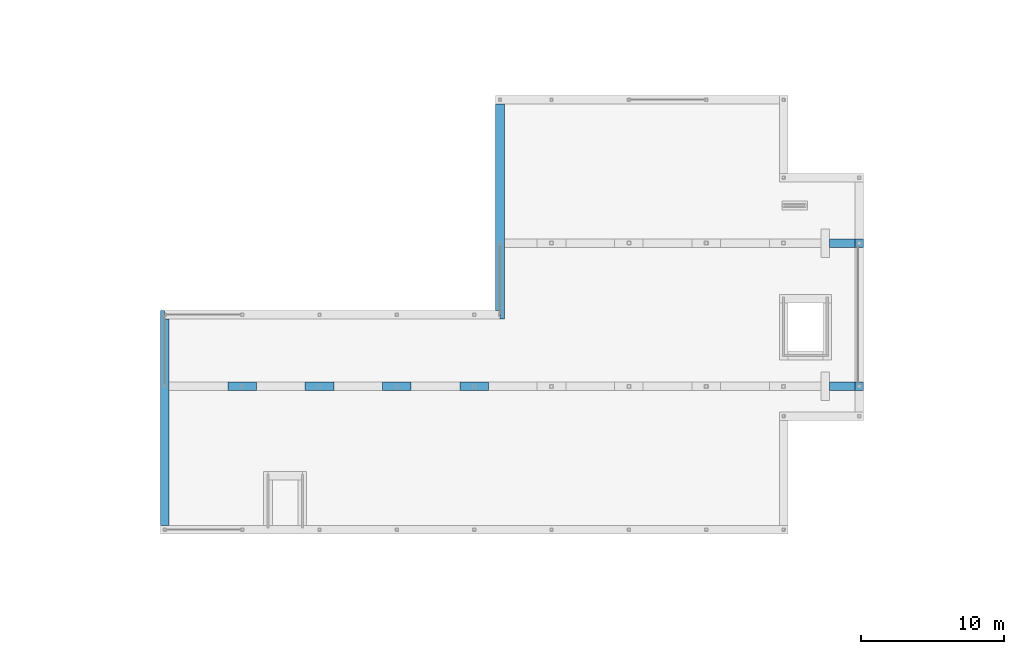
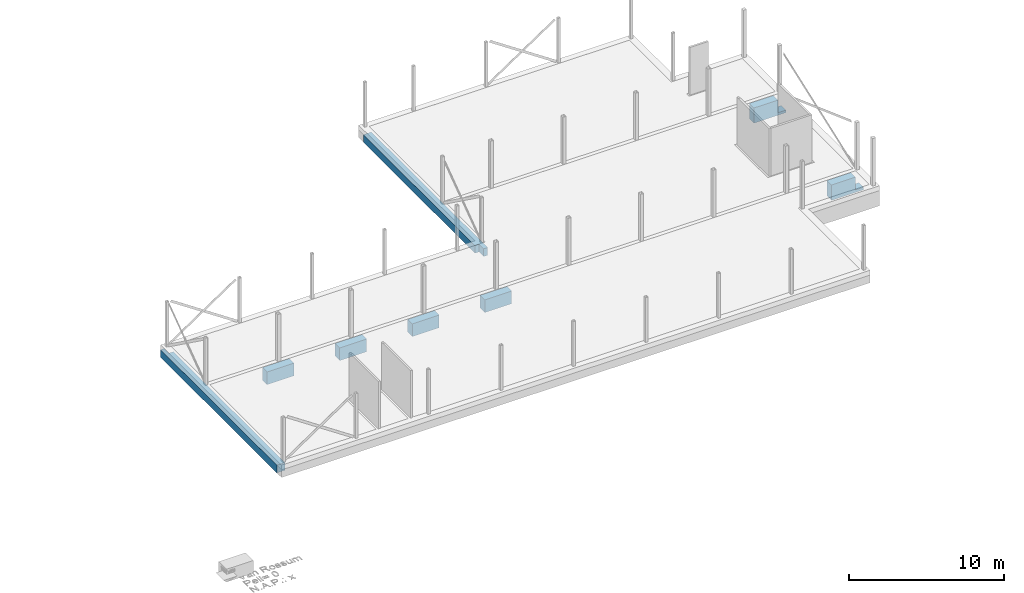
# One storey, part 7 of 12: 4 beams, 4 slabs.
"""IFC2X3 building model written with IfcOpenShell, lengths in millimetres."""

from ifc_helpers import new_model, entity, si_unit, converted_unit, derived_unit, direction, frame, frame_2d, origin, place, context, subcontext, project, spatial, rectangle, extrude, faceted_brep, material, type_object, element, save


model = new_model("IFC2X3")

# Units and contexts
model_context = context("Model", 3, precision=0.01, world=origin(), true_north=direction((6.123031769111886e-17, 1.0)))
body_context = subcontext(model_context, "Body", "Model", "MODEL_VIEW")
ifc_project = project(units=[si_unit("LENGTHUNIT", "METRE", prefix="MILLI"), si_unit("AREAUNIT", "SQUARE_METRE"), si_unit("VOLUMEUNIT", "CUBIC_METRE"), converted_unit("PLANEANGLEUNIT", "DEGREE", entity("IfcPlaneAngleMeasure", 0.017453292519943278), si_unit("PLANEANGLEUNIT", "RADIAN"), dimensions=[0, 0, 0, 0, 0, 0, 0]), si_unit("MASSUNIT", "GRAM", prefix="KILO"), derived_unit("MASSDENSITYUNIT", [(si_unit("MASSUNIT", "GRAM", prefix="KILO"), 1), (si_unit("LENGTHUNIT", "METRE"), -3)]), derived_unit("IONCONCENTRATIONUNIT", [(si_unit("MASSUNIT", "GRAM", prefix="KILO"), 1), (si_unit("LENGTHUNIT", "METRE"), -3)]), derived_unit("MOMENTOFINERTIAUNIT", [(si_unit("LENGTHUNIT", "METRE"), 4)]), si_unit("TIMEUNIT", "SECOND"), si_unit("FREQUENCYUNIT", "HERTZ"), si_unit("THERMODYNAMICTEMPERATUREUNIT", "DEGREE_CELSIUS"), derived_unit("THERMALTRANSMITTANCEUNIT", [(si_unit("MASSUNIT", "GRAM", prefix="KILO"), 1), (si_unit("THERMODYNAMICTEMPERATUREUNIT", "KELVIN"), -1), (si_unit("TIMEUNIT", "SECOND"), -3)]), derived_unit("THERMALCONDUCTANCEUNIT", [(si_unit("MASSUNIT", "GRAM", prefix="KILO"), 1), (si_unit("THERMODYNAMICTEMPERATUREUNIT", "KELVIN"), -1), (si_unit("TIMEUNIT", "SECOND"), -3), (si_unit("LENGTHUNIT", "METRE"), 1)]), derived_unit("VOLUMETRICFLOWRATEUNIT", [(si_unit("LENGTHUNIT", "METRE", prefix="DECI"), 3), (si_unit("TIMEUNIT", "SECOND"), -1)]), derived_unit("MASSFLOWRATEUNIT", [(si_unit("MASSUNIT", "GRAM", prefix="KILO"), 1), (si_unit("TIMEUNIT", "SECOND"), -1)]), derived_unit("ROTATIONALFREQUENCYUNIT", [(si_unit("TIMEUNIT", "SECOND"), -1)]), si_unit("ELECTRICCURRENTUNIT", "AMPERE"), si_unit("ELECTRICVOLTAGEUNIT", "VOLT"), si_unit("POWERUNIT", "WATT"), si_unit("FORCEUNIT", "NEWTON", prefix="KILO"), si_unit("ILLUMINANCEUNIT", "LUX"), si_unit("LUMINOUSFLUXUNIT", "LUMEN"), si_unit("LUMINOUSINTENSITYUNIT", "CANDELA"), si_unit("ENERGYUNIT", "JOULE"), derived_unit("USERDEFINED", [(si_unit("MASSUNIT", "GRAM", prefix="KILO"), -1), (si_unit("LENGTHUNIT", "METRE"), -2), (si_unit("TIMEUNIT", "SECOND"), 3), (si_unit("LUMINOUSFLUXUNIT", "LUMEN"), 1)]), derived_unit("USERDEFINED", [(si_unit("MASSUNIT", "GRAM", prefix="KILO"), 1), (si_unit("TIMEUNIT", "SECOND"), -3), (si_unit("LENGTHUNIT", "METRE"), 3), (si_unit("ELECTRICCURRENTUNIT", "AMPERE"), -2)]), derived_unit("SOUNDPOWERUNIT", [(si_unit("MASSUNIT", "GRAM", prefix="KILO"), 1), (si_unit("TIMEUNIT", "SECOND"), -3), (si_unit("LENGTHUNIT", "METRE"), 2)]), derived_unit("SOUNDPRESSUREUNIT", [(si_unit("MASSUNIT", "GRAM", prefix="KILO"), 1), (si_unit("LENGTHUNIT", "METRE"), -1), (si_unit("TIMEUNIT", "SECOND"), -2)]), derived_unit("LINEARVELOCITYUNIT", [(si_unit("LENGTHUNIT", "METRE"), 1), (si_unit("TIMEUNIT", "SECOND"), -1)]), si_unit("PRESSUREUNIT", "PASCAL"), derived_unit("USERDEFINED", [(si_unit("MASSUNIT", "GRAM", prefix="KILO"), 1), (si_unit("LENGTHUNIT", "METRE"), -2), (si_unit("TIMEUNIT", "SECOND"), -2)]), derived_unit("LINEARFORCEUNIT", [(si_unit("MASSUNIT", "GRAM", prefix="KILO"), 1), (si_unit("TIMEUNIT", "SECOND"), -2)]), derived_unit("PLANARFORCEUNIT", [(si_unit("MASSUNIT", "GRAM", prefix="KILO"), 1), (si_unit("LENGTHUNIT", "METRE"), -1), (si_unit("TIMEUNIT", "SECOND"), -2)]), derived_unit("SPECIFICHEATCAPACITYUNIT", [(si_unit("THERMODYNAMICTEMPERATUREUNIT", "KELVIN"), -1), (si_unit("LENGTHUNIT", "METRE"), 2), (si_unit("TIMEUNIT", "SECOND"), -2)]), derived_unit("HEATFLUXDENSITYUNIT", [(si_unit("MASSUNIT", "GRAM", prefix="KILO"), 1), (si_unit("TIMEUNIT", "SECOND"), -3)]), derived_unit("HEATINGVALUEUNIT", [(si_unit("LENGTHUNIT", "METRE"), 2), (si_unit("TIMEUNIT", "SECOND"), -2)]), derived_unit("VAPORPERMEABILITYUNIT", [(si_unit("LENGTHUNIT", "METRE"), -1), (si_unit("TIMEUNIT", "SECOND"), 1)]), derived_unit("DYNAMICVISCOSITYUNIT", [(si_unit("MASSUNIT", "GRAM", prefix="KILO"), 1), (si_unit("TIMEUNIT", "SECOND"), -1), (si_unit("LENGTHUNIT", "METRE"), -1)]), derived_unit("THERMALEXPANSIONCOEFFICIENTUNIT", [(si_unit("THERMODYNAMICTEMPERATUREUNIT", "KELVIN"), -1)]), derived_unit("MODULUSOFELASTICITYUNIT", [(si_unit("MASSUNIT", "GRAM", prefix="KILO"), 1), (si_unit("LENGTHUNIT", "METRE"), -1), (si_unit("TIMEUNIT", "SECOND"), -2)]), derived_unit("ISOTHERMALMOISTURECAPACITYUNIT", [(si_unit("MASSUNIT", "GRAM", prefix="KILO"), -1), (si_unit("LENGTHUNIT", "METRE"), 3)]), derived_unit("MOISTUREDIFFUSIVITYUNIT", [(si_unit("TIMEUNIT", "SECOND"), -1), (si_unit("LENGTHUNIT", "METRE"), 2)]), derived_unit("MASSPERLENGTHUNIT", [(si_unit("MASSUNIT", "GRAM", prefix="KILO"), 1), (si_unit("LENGTHUNIT", "METRE"), -1)]), derived_unit("THERMALRESISTANCEUNIT", [(si_unit("MASSUNIT", "GRAM", prefix="KILO"), -1), (si_unit("TIMEUNIT", "SECOND"), 3), (si_unit("THERMODYNAMICTEMPERATUREUNIT", "KELVIN"), 1)]), derived_unit("ACCELERATIONUNIT", [(si_unit("LENGTHUNIT", "METRE"), 1), (si_unit("TIMEUNIT", "SECOND"), -2)]), derived_unit("ANGULARVELOCITYUNIT", [(si_unit("TIMEUNIT", "SECOND"), -1), (si_unit("PLANEANGLEUNIT", "RADIAN"), 1)]), derived_unit("LINEARSTIFFNESSUNIT", [(si_unit("MASSUNIT", "GRAM", prefix="KILO"), 1), (si_unit("TIMEUNIT", "SECOND"), -2)]), derived_unit("WARPINGCONSTANTUNIT", [(si_unit("LENGTHUNIT", "METRE"), 6)]), derived_unit("LINEARMOMENTUNIT", [(si_unit("MASSUNIT", "GRAM", prefix="KILO"), 1), (si_unit("LENGTHUNIT", "METRE"), 1), (si_unit("TIMEUNIT", "SECOND"), -2)]), derived_unit("TORQUEUNIT", [(si_unit("MASSUNIT", "GRAM", prefix="KILO"), 1), (si_unit("LENGTHUNIT", "METRE"), 2), (si_unit("TIMEUNIT", "SECOND"), -2)])], contexts=[model_context])

# Site, building, storey
site_placement = place(None, origin())
site = spatial("IfcSite", under=ifc_project, at=site_placement, Name="Default", CompositionType="ELEMENT")
building_placement = place(site_placement, origin())
building = spatial("IfcBuilding", under=site, at=building_placement, CompositionType="ELEMENT")
storey_placement = place(building_placement, origin())
storey = spatial("IfcBuildingStorey", under=building, at=storey_placement, Name="00 begane grond", CompositionType="ELEMENT", Elevation=0.0)

# Beams
ifc_material = material(Name="VRI_beton_ihwg")
beam_type_1 = type_object("IfcBeamType", Name="16_SFR_VRI_balk_beton:600x600", PredefinedType="NOTDEFINED")
beam_1_placement = place(storey_placement, frame((33100.0, 24700.0, -1060.0), z_axis=(0.0, 0.0, 1.0), x_axis=(0.0, -1.0, 0.0)))
element("IfcBeam", 1, at=beam_1_placement, inside=storey, type_object=beam_type_1, material=ifc_material, Name="16_SFR_VRI_balk_beton:600x600", ObjectType="16_SFR_VRI_balk_beton:600x600", context=body_context, shape_type="Brep", body=[
    faceted_brep([(-15000.0, 600.0, 600.0), (-15000.0, 0.0, 600.0), (-600.0, 0.0, 600.0), (-600.0, 300.0, 600.0), (0.0, 300.0, 600.0), (0.0, 600.0, 600.0), (-5000.0, 600.0, 600.0), (-5600.0, 600.0, 600.0), (-15000.0, 600.0, 0.0), (0.0, 600.0, 0.0), (-5000.0, 600.0, 0.0), (-5600.0, 600.0, 0.0), (-15000.0, 0.0, 0.0), (0.0, 300.0, 0.0), (-600.0, 300.0, 0.0), (-600.0, 0.0, 0.0)], [[[0, 1, 2, 3, 4, 5, 6, 7]], [[8, 0, 7, 6, 5, 9, 10, 11]], [[12, 8, 11, 10, 9, 13, 14, 15]], [[1, 12, 15, 2]], [[1, 0, 8, 12]], [[14, 3, 2, 15]], [[3, 14, 13, 4]], [[9, 5, 4, 13]]]),
])
beam_2_placement = place(storey_placement, frame((9700.0, 10300.0, -1060.0), z_axis=(0.0, 0.0, 1.0), x_axis=(0.0, -1.0, 0.0)))
element("IfcBeam", 2, at=beam_2_placement, inside=storey, type_object=beam_type_1, material=ifc_material, Name="16_SFR_VRI_balk_beton:600x600", ObjectType="16_SFR_VRI_balk_beton:600x600", context=body_context, shape_type="Brep", body=[
    faceted_brep([(0.0, 0.0, 600.0), (0.0, 600.0, 600.0), (-14400.0, 600.0, 600.0), (-14400.0, 280.0, 600.0), (-15000.0, 280.0, 600.0), (-15000.0, 0.0, 600.0), (0.0, 600.0, 0.0), (-14400.0, 600.0, 0.0), (0.0, 0.0, 0.0), (-15000.0, 0.0, 0.0), (-15000.0, 280.0, 0.0), (-14400.0, 280.0, 0.0)], [[[0, 1, 2, 3, 4, 5]], [[1, 6, 7, 2]], [[6, 8, 9, 10, 11, 7]], [[8, 0, 5, 9]], [[1, 0, 8, 6]], [[9, 5, 4, 10]], [[3, 11, 10, 4]], [[11, 3, 2, 7]]]),
])
beam_type_2 = type_object("IfcBeamType", Name="16_SFR_VRI_balk_beton:600x1200", PredefinedType="NOTDEFINED")
beam_3_placement = place(storey_placement, frame((56400.0, 29700.0, -1660.0), z_axis=(0.0, 0.0, 1.0), x_axis=(-1.0, 0.0, 0.0)))
element("IfcBeam", 3, at=beam_3_placement, inside=storey, type_object=beam_type_2, material=ifc_material, Name="16_SFR_VRI_balk_beton:600x1200", ObjectType="16_SFR_VRI_balk_beton:600x1200", context=body_context, shape_type="Brep", body=[
    faceted_brep([(-1775.0, 0.0, 1200.0), (-1775.0, -600.0, 1200.0), (0.0, -600.0, 1200.0), (0.0, 0.0, 1200.0), (-1775.0, -600.0, 200.0), (-2375.0, -600.0, 200.0), (-2375.0, -600.0, 0.0), (0.0, -600.0, 0.0), (-2375.0, 0.0, 0.0), (0.0, 0.0, 0.0), (-2375.0, 0.0, 200.0), (-1775.0, 0.0, 200.0)], [[[0, 1, 2, 3]], [[4, 5, 6, 7, 2, 1]], [[6, 8, 9, 7]], [[10, 11, 0, 3, 9, 8]], [[8, 6, 5, 10]], [[4, 11, 10, 5]], [[11, 4, 1, 0]], [[3, 2, 7, 9]]]),
])
beam_4_placement = place(storey_placement, frame((56400.0, 19700.0, -1660.0), z_axis=(0.0, 0.0, 1.0), x_axis=(-1.0, 0.0, 0.0)))
element("IfcBeam", 4, at=beam_4_placement, inside=storey, type_object=beam_type_2, material=ifc_material, Name="16_SFR_VRI_balk_beton:600x1200", ObjectType="16_SFR_VRI_balk_beton:600x1200", context=body_context, shape_type="Brep", body=[
    faceted_brep([(-1775.0, 0.0, 1200.0), (-1775.0, -600.0, 1200.0), (0.0, -600.0, 1200.0), (0.0, 0.0, 1200.0), (-1775.0, -600.0, 200.0), (-2375.0, -600.0, 200.0), (-2375.0, -600.0, 0.0), (0.0, -600.0, 0.0), (-2375.0, 0.0, 0.0), (0.0, 0.0, 0.0), (-2375.0, 0.0, 200.0), (-1775.0, 0.0, 200.0)], [[[0, 1, 2, 3]], [[4, 5, 6, 7, 2, 1]], [[6, 8, 9, 7]], [[10, 11, 0, 3, 9, 8]], [[4, 11, 10, 5]], [[11, 4, 1, 0]], [[8, 6, 5, 10]], [[3, 2, 7, 9]]]),
])

# Slabs
slab_type = type_object("IfcSlabType", Name="16_SFO_VRI_beton_poer:600x1000x2000", PredefinedType="BASESLAB", material=ifc_material)
slab_1_placement = place(storey_placement, origin())
element("IfcSlab", 5, at=slab_1_placement, inside=storey, type_object=slab_type, Name="16_SFO_VRI_beton_poer:600x1000x2000", ObjectType="16_SFO_VRI_beton_poer:600x1000x2000", PredefinedType="BASESLAB", context=body_context, shape_type="SweptSolid", body=[
    extrude(rectangle(XDim=599.9999999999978, YDim=2000.0000000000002, at=frame_2d((4.348521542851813e-12, -2.1600499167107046e-12), x_axis=(1.0, 0.0))), frame((15400.0, 20000.0, -1460.0), z_axis=(0.0, 0.0, 1.0), x_axis=(0.0, -1.0, 0.0)), (0.0, 0.0, 1.0), 1000.0000000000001),
])
slab_2_placement = place(storey_placement, origin())
element("IfcSlab", 6, at=slab_2_placement, inside=storey, type_object=slab_type, Name="16_SFO_VRI_beton_poer:600x1000x2000", ObjectType="16_SFO_VRI_beton_poer:600x1000x2000", PredefinedType="BASESLAB", context=body_context, shape_type="SweptSolid", body=[
    extrude(rectangle(XDim=599.9999999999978, YDim=2000.0000000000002, at=frame_2d((4.348521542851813e-12, -2.1600499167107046e-12), x_axis=(1.0, 0.0))), frame((20800.0, 20000.0, -1460.0), z_axis=(0.0, 0.0, 1.0), x_axis=(0.0, -1.0, 0.0)), (0.0, 0.0, 1.0), 1000.0000000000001),
])
slab_3_placement = place(storey_placement, origin())
element("IfcSlab", 7, at=slab_3_placement, inside=storey, type_object=slab_type, Name="16_SFO_VRI_beton_poer:600x1000x2000", ObjectType="16_SFO_VRI_beton_poer:600x1000x2000", PredefinedType="BASESLAB", context=body_context, shape_type="SweptSolid", body=[
    extrude(rectangle(XDim=599.9999999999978, YDim=2000.0000000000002, at=frame_2d((4.348521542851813e-12, -2.1600499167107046e-12), x_axis=(1.0, 0.0))), frame((26200.0, 20000.0, -1460.0), z_axis=(0.0, 0.0, 1.0), x_axis=(0.0, -1.0, 0.0)), (0.0, 0.0, 1.0), 1000.0000000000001),
])
slab_4_placement = place(storey_placement, origin())
element("IfcSlab", 8, at=slab_4_placement, inside=storey, type_object=slab_type, Name="16_SFO_VRI_beton_poer:600x1000x2000", ObjectType="16_SFO_VRI_beton_poer:600x1000x2000", PredefinedType="BASESLAB", context=body_context, shape_type="SweptSolid", body=[
    extrude(rectangle(XDim=599.9999999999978, YDim=2000.0000000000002, at=frame_2d((4.348521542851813e-12, 2.1600499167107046e-12), x_axis=(1.0, 0.0))), frame((31600.0, 20000.0, -1460.0), z_axis=(0.0, 0.0, 1.0), x_axis=(0.0, -1.0, 0.0)), (0.0, 0.0, 1.0), 1000.0000000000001),
])

save(model, "model.ifc")
